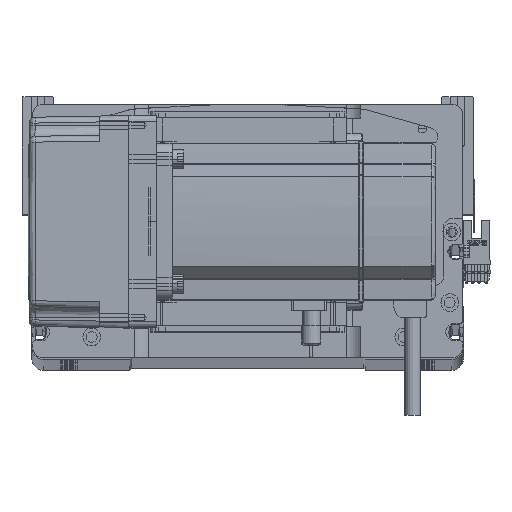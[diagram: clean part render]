
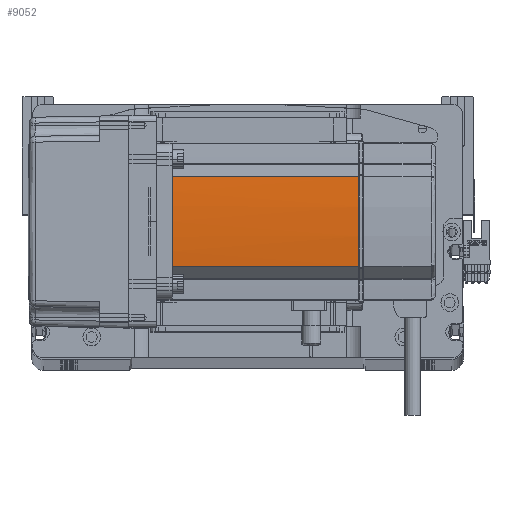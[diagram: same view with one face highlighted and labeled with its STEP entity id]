
A CAD part, top view. The second image highlights one B-rep face of the part: STEP entity #9052.
In plain terms, the highlighted cylindrical face has radius 270 mm (diameter 540 mm), a partial arc.
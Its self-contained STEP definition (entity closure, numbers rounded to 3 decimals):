
#1209 = VERTEX_POINT ( 'NONE', #15648 ) ;
#3673 = CARTESIAN_POINT ( 'NONE',  ( 39.042, -22.724, 58. ) ) ;
#5428 = VERTEX_POINT ( 'NONE', #41095 ) ;
#7427 = EDGE_CURVE ( 'NONE', #5428, #13776, #44751, .T. ) ;
#7561 = ORIENTED_EDGE ( 'NONE', *, *, #21885, .T. ) ;
#8861 = DIRECTION ( 'NONE',  ( -1., 0., 0. ) ) ;
#9052 = ADVANCED_FACE ( 'NONE', ( #21487 ), #25112, .T. ) ;
#9789 = DIRECTION ( 'NONE',  ( 0., 0., -1. ) ) ;
#10903 = EDGE_LOOP ( 'NONE', ( #39604, #53605, #7561, #17871, #14418, #22272 ) ) ;
#13742 = DIRECTION ( 'NONE',  ( -1., 0., 0. ) ) ;
#13776 = VERTEX_POINT ( 'NONE', #51179 ) ;
#14418 = ORIENTED_EDGE ( 'NONE', *, *, #7427, .F. ) ;
#15648 = CARTESIAN_POINT ( 'NONE',  ( 39.042, -22.724, 134. ) ) ;
#15764 = EDGE_CURVE ( 'NONE', #5428, #1209, #44272, .T. ) ;
#16856 = AXIS2_PLACEMENT_3D ( 'NONE', #39517, #57798, #44659 ) ;
#16865 = AXIS2_PLACEMENT_3D ( 'NONE', #49773, #36803, #8861 ) ;
#17871 = ORIENTED_EDGE ( 'NONE', *, *, #24134, .T. ) ;
#18429 = CARTESIAN_POINT ( 'NONE',  ( 40., 0.127, 134. ) ) ;
#18500 = CARTESIAN_POINT ( 'NONE',  ( -230., 0., 58. ) ) ;
#19212 = CARTESIAN_POINT ( 'NONE',  ( 40., 0.042, 134. ) ) ;
#20946 = CIRCLE ( 'NONE', #16865, 270. ) ;
#21487 = FACE_OUTER_BOUND ( 'NONE', #10903, .T. ) ;
#21885 = EDGE_CURVE ( 'NONE', #26732, #31388, #51172, .T. ) ;
#22272 = ORIENTED_EDGE ( 'NONE', *, *, #15764, .T. ) ;
#22367 = VERTEX_POINT ( 'NONE', #36340 ) ;
#23805 = CARTESIAN_POINT ( 'NONE',  ( 40., -0.127, 134. ) ) ;
#24134 = EDGE_CURVE ( 'NONE', #31388, #13776, #20946, .T. ) ;
#25112 = CYLINDRICAL_SURFACE ( 'NONE', #52000, 270. ) ;
#25971 = CARTESIAN_POINT ( 'NONE',  ( 39.042, 22.724, 134. ) ) ;
#26732 = VERTEX_POINT ( 'NONE', #30190 ) ;
#30155 = VECTOR ( 'NONE', #35354, 1000. ) ;
#30190 = CARTESIAN_POINT ( 'NONE',  ( 39.042, 22.724, 39. ) ) ;
#30520 = VECTOR ( 'NONE', #55195, 1000. ) ;
#31388 = VERTEX_POINT ( 'NONE', #25971 ) ;
#32392 = EDGE_CURVE ( 'NONE', #26732, #22367, #58790, .T. ) ;
#35354 = DIRECTION ( 'NONE',  ( 0., 0., -1. ) ) ;
#36340 = CARTESIAN_POINT ( 'NONE',  ( 39.042, -22.724, 39. ) ) ;
#36803 = DIRECTION ( 'NONE',  ( 0., 0., -1. ) ) ;
#39517 = CARTESIAN_POINT ( 'NONE',  ( -230., 0., 134. ) ) ;
#39604 = ORIENTED_EDGE ( 'NONE', *, *, #47976, .T. ) ;
#40383 = DIRECTION ( 'NONE',  ( 0., 0., -1. ) ) ;
#40447 = AXIS2_PLACEMENT_3D ( 'NONE', #45524, #40383, #58480 ) ;
#41095 = CARTESIAN_POINT ( 'NONE',  ( 40., -0.127, 134. ) ) ;
#44272 = CIRCLE ( 'NONE', #16856, 270. ) ;
#44659 = DIRECTION ( 'NONE',  ( -1., 0., 0. ) ) ;
#44751 = B_SPLINE_CURVE_WITH_KNOTS ( 'NONE', 3,
 ( #23805, #46450, #19212, #18429 ),
 .UNSPECIFIED., .F., .F.,
 ( 4, 4 ),
 ( 0., 1. ),
 .UNSPECIFIED. ) ;
#45524 = CARTESIAN_POINT ( 'NONE',  ( -230., 0., 39. ) ) ;
#46248 = CARTESIAN_POINT ( 'NONE',  ( 39.042, 22.724, 58. ) ) ;
#46450 = CARTESIAN_POINT ( 'NONE',  ( 40., -0.042, 134. ) ) ;
#47976 = EDGE_CURVE ( 'NONE', #1209, #22367, #48655, .T. ) ;
#48655 = LINE ( 'NONE', #3673, #30155 ) ;
#49773 = CARTESIAN_POINT ( 'NONE',  ( -230., 0., 134. ) ) ;
#51172 = LINE ( 'NONE', #46248, #30520 ) ;
#51179 = CARTESIAN_POINT ( 'NONE',  ( 40., 0.127, 134. ) ) ;
#52000 = AXIS2_PLACEMENT_3D ( 'NONE', #18500, #9789, #13742 ) ;
#53605 = ORIENTED_EDGE ( 'NONE', *, *, #32392, .F. ) ;
#55195 = DIRECTION ( 'NONE',  ( 0., 0., 1. ) ) ;
#57798 = DIRECTION ( 'NONE',  ( 0., 0., -1. ) ) ;
#58480 = DIRECTION ( 'NONE',  ( -1., 0., 0. ) ) ;
#58790 = CIRCLE ( 'NONE', #40447, 270. ) ;
